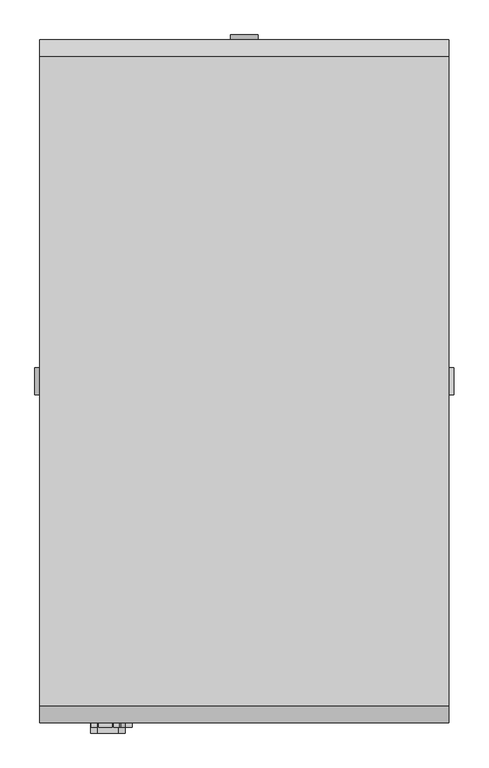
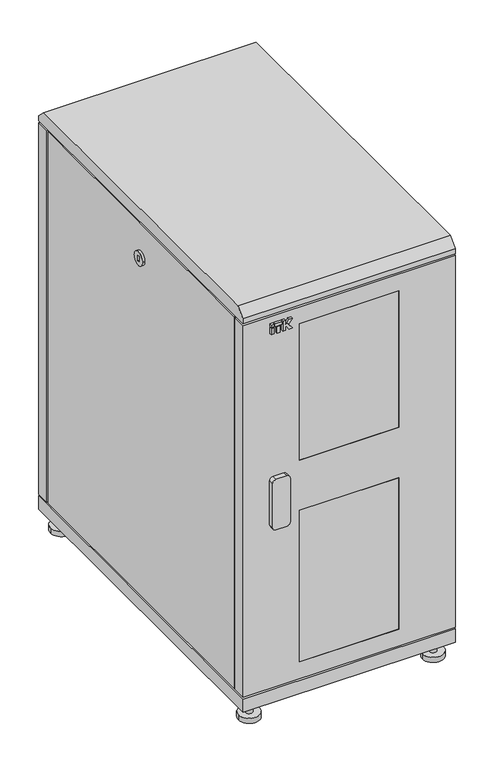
"""IFC4 building model written with IfcOpenShell, lengths in millimetres: proxy geometry, Шкафы ITK серия S_PP : LS05-24U61-PP-1."""

from ifc_helpers import new_model, si_unit, point, frame, frame_2d, origin, origin_with_axes, place, context, project, spatial, polyline, circle_curve, trimmed, segment, composite_curve, outline, extrude, faceted_brep, source, transform, mapped, element, save


def electrical_fixtures_008fe8da(model_context):
    return source(origin(), model_context, "Body", "SolidModel", [
        extrude(outline(polyline([(-215.9746193, -507.0), (-224.197592, -507.0), (-224.197592, -500.0), (-215.9746193, -500.0), (-215.9746193, -507.0)])), frame((0.0, 0.0, 1155.0), z_axis=(0.0, 0.0, 1.0), x_axis=(1.0, 0.0, 0.0)), (0.0, 0.0, 1.0), 18.8087618),
        extrude(outline(polyline([(-199.9605777, -507.0), (-207.7053315, -507.0), (-207.7053315, -500.0), (-199.9605777, -500.0), (-199.9605777, -507.0)])), frame((0.0, 0.0, 1155.0), z_axis=(0.0, 0.0, 1.0), x_axis=(1.0, 0.0, 0.0)), (0.0, 0.0, 1.0), 18.8087618),
        extrude(outline(polyline([(-215.9746193, -507.0), (-224.197592, -507.0), (-224.197592, -500.0), (-215.9746193, -500.0), (-215.9746193, -507.0)])), frame((0.0, 0.0, 1176.4305892), z_axis=(0.0, 0.0, 1.0), x_axis=(1.0, 0.0, 0.0)), (0.0, 0.0, 1.0), 7.9794747),
        extrude(outline(polyline([(1155.0, -191.5184175), (1155.0, -183.7669278), (1166.0271455, -183.7669278), (1166.0271455, -180.8031229), (1155.0, -173.6420108), (1155.0, -164.197592), (1169.7278745, -174.8980192), (1184.410064, -164.197592), (1184.410064, -173.6420108), (1173.3829184, -180.8031229), (1173.3829184, -183.7669278), (1184.410064, -183.7669278), (1184.410064, -191.5184175), (1155.0, -191.5184175)])), frame((0.0, -507.0, 0.0), z_axis=(0.0, 1.0, 0.0), x_axis=(0.0, 0.0, 1.0)), (0.0, 0.0, 1.0), 7.0),
        extrude(outline(polyline([(-194.0851324, -507.0), (-213.5807768, -507.0), (-213.5807768, -500.0), (-194.0851324, -500.0), (-194.0851324, -507.0)])), frame((0.0, 0.0, 1176.4305892), z_axis=(0.0, 0.0, 1.0), x_axis=(1.0, 0.0, 0.0)), (0.0, 0.0, 1.0), 7.9794747),
        extrude(outline(composite_curve([segment(polyline([(725.0, -185.0), (725.0, -215.0)]), True, "CONTINUOUS"), segment(trimmed(circle_curve(frame_2d((715.0, -215.0)), 10.0), [point((725.0, -215.0))], [point((715.0, -225.0))], False, "CARTESIAN"), True, "CONTINUOUS"), segment(polyline([(715.0, -225.0), (585.0, -225.0)]), True, "CONTINUOUS"), segment(trimmed(circle_curve(frame_2d((585.0, -215.0)), 10.0), [point((585.0, -225.0))], [point((575.0, -215.0))], False, "CARTESIAN"), True, "CONTINUOUS"), segment(polyline([(575.0, -215.0), (575.0, -185.0)]), True, "CONTINUOUS"), segment(trimmed(circle_curve(frame_2d((585.0, -185.0)), 10.0), [point((575.0, -185.0))], [point((585.0, -175.0))], False, "CARTESIAN"), True, "CONTINUOUS"), segment(polyline([(585.0, -175.0), (715.0, -175.0)]), True, "CONTINUOUS"), segment(trimmed(circle_curve(frame_2d((715.0, -185.0)), 10.0), [point((715.0, -175.0))], [point((725.0, -185.0))], False, "CARTESIAN"), True, "CONTINUOUS")], self_intersect=False)), frame((0.0, -515.0, 0.0), z_axis=(0.0, 1.0, 0.0), x_axis=(0.0, 0.0, 1.0)), (0.0, 0.0, 1.0), 15.0),
        faceted_brep([(-260.0, -480.0, 1205.0), (-260.0, -445.0, 1205.0), (-270.0, -445.0, 1205.0), (-270.0, -460.0, 1205.0), (-300.0, -460.0, 1205.0), (-300.0, -500.0, 1205.0), (300.0, -500.0, 1205.0), (300.0, -460.0, 1205.0), (270.0, -460.0, 1205.0), (270.0, -445.0, 1205.0), (260.0, -445.0, 1205.0), (260.0, -480.0, 1205.0), (-300.0, -500.0, 95.0), (-300.0, -460.0, 95.0), (-270.0, -460.0, 95.0), (-270.0, -445.0, 95.0), (-260.0, -445.0, 95.0), (-260.0, -480.0, 95.0), (260.0, -480.0, 95.0), (260.0, -445.0, 95.0), (270.0, -445.0, 95.0), (270.0, -460.0, 95.0), (300.0, -460.0, 95.0), (300.0, -500.0, 95.0), (-140.0, -500.0, 597.5), (140.0, -500.0, 597.5), (140.0, -500.0, 145.0), (-140.0, -500.0, 145.0), (-140.0, -500.0, 1155.0), (140.0, -500.0, 1155.0), (140.0, -500.0, 747.5), (-140.0, -500.0, 747.5), (-140.0, -480.0, 145.0), (140.0, -480.0, 145.0), (140.0, -480.0, 597.5), (-140.0, -480.0, 597.5), (-140.0, -480.0, 747.5), (140.0, -480.0, 747.5), (140.0, -480.0, 1155.0), (-140.0, -480.0, 1155.0)], [[[0, 1, 2, 3, 4, 5, 6, 7, 8, 9, 10, 11]], [[12, 13, 14, 15, 16, 17, 18, 19, 20, 21, 22, 23]], [[6, 5, 12, 23], [24, 25, 26, 27], [28, 29, 30, 31]], [[5, 4, 13, 12]], [[4, 3, 14, 13]], [[0, 11, 18, 17], [32, 33, 34, 35], [36, 37, 38, 39]], [[32, 35, 24, 27]], [[36, 39, 28, 31]], [[34, 33, 26, 25]], [[38, 37, 30, 29]], [[27, 26, 33, 32]], [[31, 30, 37, 36]], [[25, 24, 35, 34]], [[29, 28, 39, 38]], [[1, 0, 17, 16]], [[2, 1, 16, 15]], [[3, 2, 15, 14]], [[7, 6, 23, 22]], [[8, 7, 22, 21]], [[9, 8, 21, 20]], [[10, 9, 20, 19]], [[11, 10, 19, 18]]]),
        extrude(outline(polyline([(140.0, -500.0), (-140.0, -500.0), (-140.0, -480.0), (140.0, -480.0), (140.0, -500.0)])), frame((0.0, 0.0, 747.5), z_axis=(0.0, 0.0, 1.0), x_axis=(1.0, 0.0, 0.0)), (0.0, 0.0, 1.0), 407.5),
        extrude(outline(polyline([(140.0, -500.0), (-140.0, -500.0), (-140.0, -480.0), (140.0, -480.0), (140.0, -500.0)])), frame((0.0, 0.0, 145.0), z_axis=(0.0, 0.0, 1.0), x_axis=(1.0, 0.0, 0.0)), (0.0, 0.0, 1.0), 452.5),
        extrude(outline(composite_curve([segment(trimmed(circle_curve(frame_2d((-260.0, 460.0)), 10.0), [point((-250.0, 460.0))], [point((-270.0, 460.0))], False, "CARTESIAN"), True, "CONTINUOUS"), segment(trimmed(circle_curve(frame_2d((-260.0, 460.0)), 10.0), [point((-270.0, 460.0))], [point((-250.0, 460.0))], False, "CARTESIAN"), True, "CONTINUOUS")], self_intersect=False)), frame((0.0, 0.0, 15.0), z_axis=(0.0, 0.0, 1.0), x_axis=(1.0, 0.0, 0.0)), (0.0, 0.0, 1.0), 35.0),
        extrude(outline(composite_curve([segment(trimmed(circle_curve(frame_2d((260.0, 460.0)), 10.0), [point((270.0, 460.0))], [point((250.0, 460.0))], False, "CARTESIAN"), True, "CONTINUOUS"), segment(trimmed(circle_curve(frame_2d((260.0, 460.0)), 10.0), [point((250.0, 460.0))], [point((270.0, 460.0))], False, "CARTESIAN"), True, "CONTINUOUS")], self_intersect=False)), frame((0.0, 0.0, 15.0), z_axis=(0.0, 0.0, 1.0), x_axis=(1.0, 0.0, 0.0)), (0.0, 0.0, 1.0), 35.0),
        extrude(outline(composite_curve([segment(trimmed(circle_curve(frame_2d((-260.0, -460.0)), 10.0), [point((-250.0, -460.0))], [point((-270.0, -460.0))], False, "CARTESIAN"), True, "CONTINUOUS"), segment(trimmed(circle_curve(frame_2d((-260.0, -460.0)), 10.0), [point((-270.0, -460.0))], [point((-250.0, -460.0))], False, "CARTESIAN"), True, "CONTINUOUS")], self_intersect=False)), frame((0.0, 0.0, 15.0), z_axis=(0.0, 0.0, 1.0), x_axis=(1.0, 0.0, 0.0)), (0.0, 0.0, 1.0), 35.0),
        extrude(outline(composite_curve([segment(trimmed(circle_curve(frame_2d((260.0, -460.0)), 10.0), [point((270.0, -460.0))], [point((250.0, -460.0))], False, "CARTESIAN"), True, "CONTINUOUS"), segment(trimmed(circle_curve(frame_2d((260.0, -460.0)), 10.0), [point((250.0, -460.0))], [point((270.0, -460.0))], False, "CARTESIAN"), True, "CONTINUOUS")], self_intersect=False)), frame((0.0, 0.0, 15.0), z_axis=(0.0, 0.0, 1.0), x_axis=(1.0, 0.0, 0.0)), (0.0, 0.0, 1.0), 35.0),
        extrude(outline(composite_curve([segment(trimmed(circle_curve(frame_2d((-260.0, 460.0)), 30.0), [point((-230.0, 460.0))], [point((-290.0, 460.0))], False, "CARTESIAN"), True, "CONTINUOUS"), segment(trimmed(circle_curve(frame_2d((-260.0, 460.0)), 30.0), [point((-290.0, 460.0))], [point((-230.0, 460.0))], False, "CARTESIAN"), True, "CONTINUOUS")], self_intersect=False)), origin_with_axes(), (0.0, 0.0, 1.0), 15.0),
        extrude(outline(composite_curve([segment(trimmed(circle_curve(frame_2d((260.0, 460.0)), 30.0), [point((290.0, 460.0))], [point((230.0, 460.0))], False, "CARTESIAN"), True, "CONTINUOUS"), segment(trimmed(circle_curve(frame_2d((260.0, 460.0)), 30.0), [point((230.0, 460.0))], [point((290.0, 460.0))], False, "CARTESIAN"), True, "CONTINUOUS")], self_intersect=False)), origin_with_axes(), (0.0, 0.0, 1.0), 15.0),
        extrude(outline(composite_curve([segment(trimmed(circle_curve(frame_2d((-260.0, -460.0)), 30.0), [point((-230.0, -460.0))], [point((-290.0, -460.0))], False, "CARTESIAN"), True, "CONTINUOUS"), segment(trimmed(circle_curve(frame_2d((-260.0, -460.0)), 30.0), [point((-290.0, -460.0))], [point((-230.0, -460.0))], False, "CARTESIAN"), True, "CONTINUOUS")], self_intersect=False)), origin_with_axes(), (0.0, 0.0, 1.0), 15.0),
        extrude(outline(composite_curve([segment(trimmed(circle_curve(frame_2d((260.0, -460.0)), 30.0), [point((290.0, -460.0))], [point((230.0, -460.0))], False, "CARTESIAN"), True, "CONTINUOUS"), segment(trimmed(circle_curve(frame_2d((260.0, -460.0)), 30.0), [point((230.0, -460.0))], [point((290.0, -460.0))], False, "CARTESIAN"), True, "CONTINUOUS")], self_intersect=False)), origin_with_axes(), (0.0, 0.0, 1.0), 15.0),
        extrude(outline(polyline([(-475.0, 1250.0), (475.0, 1250.0), (500.0, 1225.0), (500.0, 1210.0), (-500.0, 1210.0), (-500.0, 1225.0), (-475.0, 1250.0)])), frame((-300.0, 0.0, 0.0), z_axis=(1.0, 0.0, 0.0), x_axis=(0.0, 1.0, 0.0)), (0.0, 0.0, 1.0), 600.0),
        extrude(outline(polyline([(260.0, 460.0), (260.0, 445.0), (290.0, 445.0), (290.0, -445.0), (260.0, -445.0), (260.0, -460.0), (245.0, -460.0), (245.0, -480.0), (-245.0, -480.0), (-245.0, -460.0), (-260.0, -460.0), (-260.0, -445.0), (-290.0, -445.0), (-290.0, 445.0), (-260.0, 445.0), (-260.0, 460.0), (-245.0, 460.0), (-245.0, 490.0), (245.0, 490.0), (245.0, 460.0), (260.0, 460.0)])), frame((0.0, 0.0, 90.0), z_axis=(0.0, 0.0, 1.0), x_axis=(1.0, 0.0, 0.0)), (0.0, 0.0, 1.0), 5.0),
        extrude(outline(polyline([(260.0, 460.0), (260.0, 445.0), (290.0, 445.0), (290.0, -445.0), (260.0, -445.0), (260.0, -460.0), (245.0, -460.0), (245.0, -480.0), (-245.0, -480.0), (-245.0, -460.0), (-260.0, -460.0), (-260.0, -445.0), (-290.0, -445.0), (-290.0, 445.0), (-260.0, 445.0), (-260.0, 460.0), (-245.0, 460.0), (-245.0, 490.0), (245.0, 490.0), (245.0, 460.0), (260.0, 460.0)])), frame((0.0, 0.0, 1205.0), z_axis=(0.0, 0.0, 1.0), x_axis=(1.0, 0.0, 0.0)), (0.0, 0.0, 1.0), 5.0),
        extrude(outline(polyline([(300.0, -500.0), (-300.0, -500.0), (-300.0, 500.0), (300.0, 500.0), (300.0, -500.0)])), frame((0.0, 0.0, 50.0), z_axis=(0.0, 0.0, 1.0), x_axis=(1.0, 0.0, 0.0)), (0.0, 0.0, 1.0), 40.0),
        extrude(outline(composite_curve([segment(trimmed(circle_curve(frame_2d((1105.0, 0.0)), 20.0), [point((1105.0, 20.0))], [point((1105.0, -20.0))], False, "CARTESIAN"), True, "CONTINUOUS"), segment(trimmed(circle_curve(frame_2d((1105.0, 0.0)), 20.0), [point((1105.0, -20.0))], [point((1105.0, 20.0))], False, "CARTESIAN"), True, "CONTINUOUS")], self_intersect=False), holes=[polyline([(1096.7814397, -3.0), (1113.2185603, -3.0), (1113.2185603, 3.0), (1096.7814397, 3.0), (1096.7814397, -3.0)])]), frame((0.0, 500.0, 0.0), z_axis=(0.0, 1.0, 0.0), x_axis=(0.0, 0.0, 1.0)), (0.0, 0.0, 1.0), 7.0),
        extrude(outline(polyline([(300.0, 500.0), (300.0, 460.0), (270.0, 460.0), (270.0, 445.0), (260.0, 445.0), (260.0, 490.0), (-260.0, 490.0), (-260.0, 445.0), (-270.0, 445.0), (-270.0, 460.0), (-300.0, 460.0), (-300.0, 500.0), (300.0, 500.0)])), frame((0.0, 0.0, 95.0), z_axis=(0.0, 0.0, 1.0), x_axis=(1.0, 0.0, 0.0)), (0.0, 0.0, 1.0), 1110.0),
        extrude(outline(composite_curve([segment(trimmed(circle_curve(frame_2d((0.0, 1105.0)), 20.0), [point((-20.0, 1105.0))], [point((20.0, 1105.0))], False, "CARTESIAN"), True, "CONTINUOUS"), segment(trimmed(circle_curve(frame_2d((0.0, 1105.0)), 20.0), [point((20.0, 1105.0))], [point((-20.0, 1105.0))], False, "CARTESIAN"), True, "CONTINUOUS")], self_intersect=False), holes=[polyline([(3.0, 1096.7814397), (3.0, 1113.2185603), (-3.0, 1113.2185603), (-3.0, 1096.7814397), (3.0, 1096.7814397)])]), frame((300.0, 0.0, 0.0), z_axis=(1.0, 0.0, 0.0), x_axis=(0.0, 1.0, 0.0)), (0.0, 0.0, 1.0), 7.0),
        extrude(outline(composite_curve([segment(trimmed(circle_curve(frame_2d((0.0, 1105.0)), 20.0), [point((20.0, 1105.0))], [point((-20.0, 1105.0))], False, "CARTESIAN"), True, "CONTINUOUS"), segment(trimmed(circle_curve(frame_2d((0.0, 1105.0)), 20.0), [point((-20.0, 1105.0))], [point((20.0, 1105.0))], False, "CARTESIAN"), True, "CONTINUOUS")], self_intersect=False), holes=[polyline([(-3.0, 1096.7814397), (3.0, 1096.7814397), (3.0, 1113.2185603), (-3.0, 1113.2185603), (-3.0, 1096.7814397)])]), frame((-307.0, 0.0, 0.0), z_axis=(1.0, 0.0, 0.0), x_axis=(0.0, 1.0, 0.0)), (0.0, 0.0, 1.0), 7.0),
        extrude(outline(polyline([(-270.0, 455.0), (-270.0, 445.0), (-289.9803177, 445.0), (-289.9803177, -445.0), (-269.9803177, -445.0), (-269.9803177, -455.0), (-300.0, -455.0), (-300.0, 455.0), (-270.0, 455.0)])), frame((0.0, 0.0, 95.0), z_axis=(0.0, 0.0, 1.0), x_axis=(1.0, 0.0, 0.0)), (0.0, 0.0, 1.0), 1110.0),
        extrude(outline(polyline([(269.9803177, 455.0), (300.0, 455.0), (300.0, -455.0), (269.9803177, -455.0), (269.9803177, -445.0), (289.9803177, -445.0), (289.9803177, 445.0), (269.9803177, 445.0), (269.9803177, 455.0)])), frame((0.0, 0.0, 95.0), z_axis=(0.0, 0.0, 1.0), x_axis=(1.0, 0.0, 0.0)), (0.0, 0.0, 1.0), 1110.0),
    ])


if __name__ == "__main__":
    model = new_model("IFC4")
    model_context = context("Model", 3, world=origin())
    ifc_project = project(units=[si_unit("LENGTHUNIT", "METRE", prefix="MILLI")], contexts=[model_context])
    site = spatial("IfcSite", under=ifc_project)
    building = spatial("IfcBuilding", under=site)
    placement = place(None, origin())
    electrical_fixtures_shape = electrical_fixtures_008fe8da(model_context)
    element("IfcBuildingElementProxy", 1, Name="Шкафы ITK серия S_PP : LS05-24U61-PP-1", ObjectType="Шкафы ITK серия S_PP : LS05-24U61-PP-1", at=placement, inside=building, context=model_context, shape_type="MappedRepresentation", body=[
        mapped(electrical_fixtures_shape, transform((0.0, 0.0, 0.0), x_axis=(1.0, 0.0, 0.0), y_axis=(0.0, 1.0, 0.0), z_axis=(0.0, 0.0, 1.0))),
    ])
    save(model, "model.ifc")
